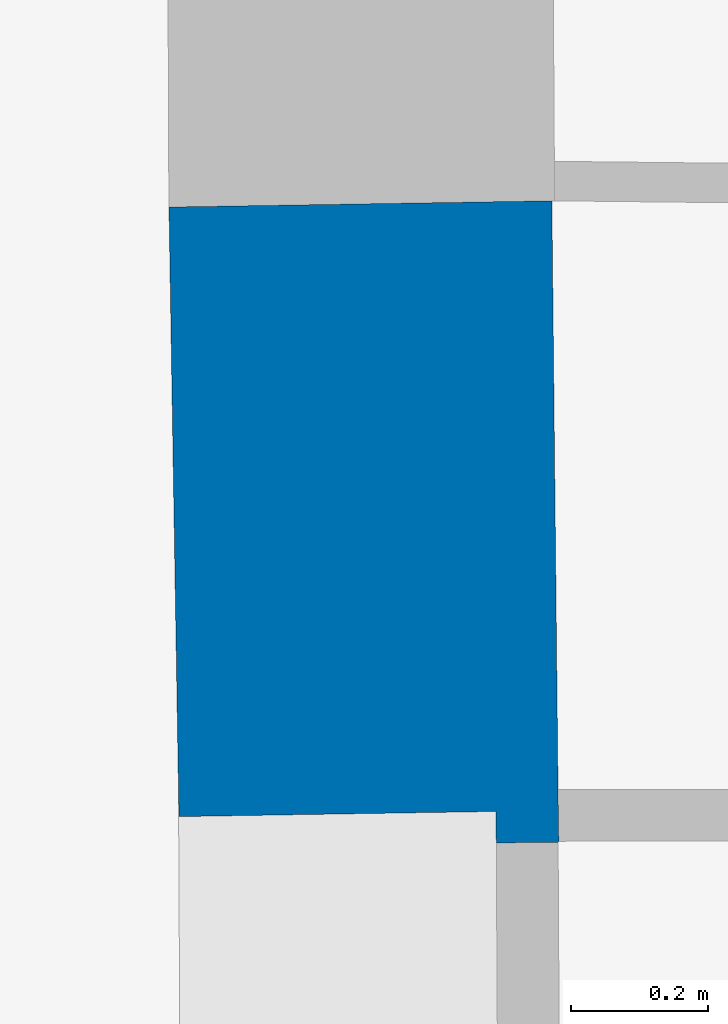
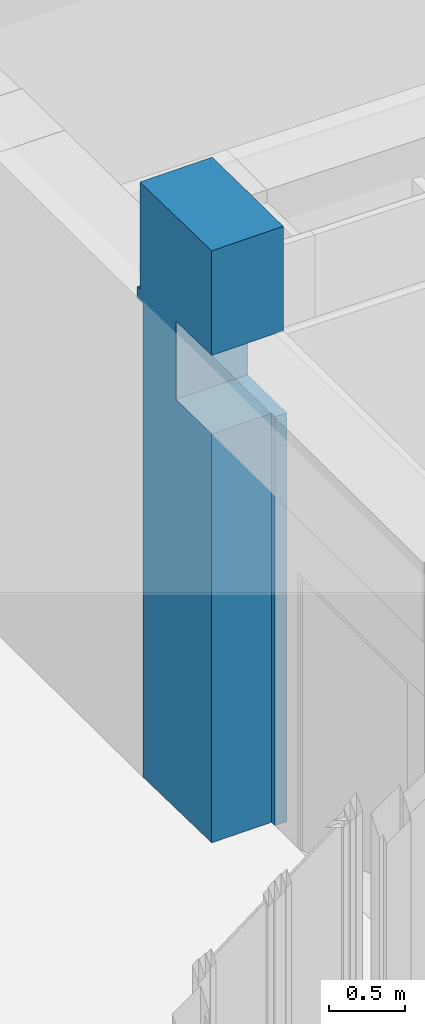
# One storey, part 57 of 97: 1 wall.
"""IFC2X3 building model written with IfcOpenShell, lengths in centimetres."""

from ifc_helpers import new_model, entity, si_unit, converted_unit, direction, frame, origin, origin_with_axes, place, context, subcontext, project, spatial, faceted_brep, material, layer, layer_set, layer_usage, type_object, element, save


model = new_model("IFC2X3")

# Units and contexts
model_context = context("Model", 3, precision=0.0001, world=origin(), true_north=direction((0.225632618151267, 0.974212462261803, 0.0)))
body_context = subcontext(model_context, "Body", "Model", "MODEL_VIEW")
ifc_project = project(units=[si_unit("LENGTHUNIT", "METRE", prefix="CENTI"), si_unit("AREAUNIT", "SQUARE_METRE", prefix="CENTI"), si_unit("VOLUMEUNIT", "CUBIC_METRE", prefix="CENTI"), converted_unit("PLANEANGLEUNIT", "DEGREE", entity("IfcRatioMeasure", 0.0174532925), si_unit("PLANEANGLEUNIT", "RADIAN"), dimensions=[0, 0, 0, 0, 0, 0, 0])], contexts=[model_context])

# Site, building, storey
site_placement = place(None, origin_with_axes())
site = spatial("IfcSite", under=ifc_project, at=site_placement, Name="Default Site", CompositionType="ELEMENT")
building_placement = place(site_placement, origin_with_axes())
building = spatial("IfcBuilding", under=site, at=building_placement, Name="Default Building", CompositionType="ELEMENT")
storey_placement = place(building_placement, origin_with_axes())
storey = spatial("IfcBuildingStorey", under=building, at=storey_placement, Name="Rez-de-chaussée", CompositionType="ELEMENT", Elevation=0.0)

# Wall
ifc_material = material(Name="<aucun>")
ifc_layer = layer(ifc_material, 55.2099975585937)
ifc_layer_set = layer_set([ifc_layer], Name="default")
ifc_layer_usage = layer_usage(ifc_layer_set, "AXIS2", "POSITIVE", -27.605)
wall_type = type_object("IfcWallType", Name="default 552.099975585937", PredefinedType="NOTDEFINED", material=ifc_layer_set)
wall_placement = place(storey_placement, frame((265.115864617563, -380.75302476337, 0.0128503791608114), z_axis=(0.0, 0.0, 1.0), x_axis=(-0.0162957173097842, 0.999867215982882, 0.0)))
element("IfcWall", 1, at=wall_placement, inside=storey, type_object=wall_type, material=ifc_layer_usage, Name="Enveloppe 673699", context=body_context, shape_type="Brep", body=[
    faceted_brep([(4.81350208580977e-06, -18.5622470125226, -4.62607735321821e-10), (-4.57214237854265, -18.5129195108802, -4.62607735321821e-10), (-4.57214237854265, -18.5129195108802, 309.987140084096), (4.81350208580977e-06, -18.5622470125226, 309.987140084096), (44.223748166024, 27.6049967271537, -4.62607735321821e-10), (3.56229069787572e-06, 27.6049966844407, -4.62607735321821e-10), (3.56229069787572e-06, 27.6049966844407, 309.987140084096), (3.83228033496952, 27.604996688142, 309.987140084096), (44.223748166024, 27.6049967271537, 309.987140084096), (88.7371148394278, 27.6050080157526, -4.62607735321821e-10), (44.223748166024, 27.6050079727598, -4.62607735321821e-10), (44.223748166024, 27.6050079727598, 309.987140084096), (46.2692220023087, 27.6050079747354, 309.987140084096), (88.7371148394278, 27.6050080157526, 309.987140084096), (3.83228033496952, 27.6050024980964, 309.987140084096), (3.56229069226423e-06, 27.605002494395, 309.987140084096), (3.56229069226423e-06, 27.605002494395, 329.987144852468), (3.83228033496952, 27.6050024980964, 329.987144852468), (-4.57214237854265, -18.5129195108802, 329.987144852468), (4.81350208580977e-06, -18.5622470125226, 329.987144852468), (46.2692220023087, 27.6050079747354, 329.987144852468), (46.2692220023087, 27.6050079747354, 391.395354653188), (88.7371148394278, 27.6050080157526, 391.395354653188), (88.7371148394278, 27.6050080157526, 382.495355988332), (46.2692220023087, 27.6049951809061, 309.987140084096), (44.223748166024, 27.6049951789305, 309.987140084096), (3.83228033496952, 27.6049951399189, 309.987140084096), (3.83228033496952, 27.6049951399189, 329.987144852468), (46.2692220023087, 27.6049951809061, 329.987144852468), (95.9978559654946, 27.5320265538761, 382.495355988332), (95.9998394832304, 27.6050076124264, 382.495355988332), (95.9998394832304, 27.6050076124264, 391.395354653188), (95.9978559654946, 27.5320265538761, 391.395354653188), (95.9998322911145, 27.6050078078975, 382.495355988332), (92.5384408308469, 27.6050078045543, 382.495355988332), (92.5384408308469, 27.6050078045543, 391.395354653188), (95.9998322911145, 27.6050078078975, 391.395354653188), (92.5384408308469, 27.6050038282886, 382.495355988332), (90.2517268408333, 27.60500382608, 382.495355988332), (90.2517268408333, 27.60500382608, 391.395354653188), (92.5384408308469, 27.6050038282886, 391.395354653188), (90.2517268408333, 27.6050026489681, 382.495355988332), (88.7371148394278, 27.6050026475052, 382.495355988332), (88.7371148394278, 27.6050026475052, 391.395354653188), (90.2517268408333, 27.6050026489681, 391.395354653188), (88.7371148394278, 27.6050038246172, 391.395354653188), (46.2692220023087, 27.6050037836, 391.395354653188), (46.2692220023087, 27.6050037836, 393.395352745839), (92.5384408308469, 27.6050038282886, 393.395352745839), (3.83228033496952, 27.6050024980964, 393.395352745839), (3.56229069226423e-06, 27.605002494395, 393.395352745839), (3.56229069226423e-06, 27.605002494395, 395.995355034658), (3.83228033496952, 27.6050024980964, 395.995355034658), (46.2692220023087, 27.6050037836, 395.995355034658), (71.4498775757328, 27.6050038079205, 395.995355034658), (92.5384408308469, 27.6050038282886, 395.995355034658), (46.2692220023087, 27.6049951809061, 393.395352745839), (3.83228033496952, 27.6049951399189, 393.395352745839), (3.83228033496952, 27.6049951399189, 395.995355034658), (46.2692220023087, 27.6049951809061, 395.995355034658), (71.4498775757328, 27.6050038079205, 477.795339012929), (92.5384408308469, 27.6050038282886, 477.795339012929), (71.4498775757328, 27.6050005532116, 395.995355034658), (46.2692220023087, 27.6050005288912, 395.995355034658), (3.83228033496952, 27.6050004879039, 395.995355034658), (3.56229069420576e-06, 27.6050004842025, 395.995355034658), (3.56229069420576e-06, 27.6050004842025, 477.795339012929), (71.4498775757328, 27.6050005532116, 477.795339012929), (-4.5721425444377, -18.512934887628, -4.62607735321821e-10), (-4.66923498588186, -27.5123960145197, -4.62607735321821e-10), (-4.66923498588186, -27.5123960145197, 309.987140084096), (-4.5721425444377, -18.512934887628, 309.987140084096), (-4.66924088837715, -27.5123959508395, -4.62607735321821e-10), (-4.48662013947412, -27.5143661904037, -4.62607735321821e-10), (-4.48662013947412, -27.5143661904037, 309.987140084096), (-4.66924088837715, -27.5123959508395, 309.987140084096), (-4.48662018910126, -27.5143707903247, -4.62607735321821e-10), (-4.48822616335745, -27.6225771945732, -4.62607735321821e-10), (-4.48822616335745, -27.6225771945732, 309.987140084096), (-4.48662018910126, -27.5143707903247, 309.987140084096), (-4.4882168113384, -27.6225773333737, -4.62607735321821e-10), (3.01259292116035, -27.6225773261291, -4.62607735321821e-10), (3.01259292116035, -27.6225773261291, 309.987140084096), (-4.4882168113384, -27.6225773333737, 309.987140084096), (3.01259292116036, -27.6225950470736, -4.62607735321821e-10), (43.2615487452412, -27.857561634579, -4.62607735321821e-10), (43.2615487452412, -27.857561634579, 309.987140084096), (3.01259292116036, -27.6225950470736, 309.987140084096), (43.2615487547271, -27.8575600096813, -4.62607735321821e-10), (88.7371227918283, -28.12303870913, -4.62607735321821e-10), (88.7371227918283, -28.12303870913, 309.987140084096), (46.2692171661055, -27.8751182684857, 309.987140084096), (43.2615487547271, -27.8575600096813, 309.987140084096), (-4.66923498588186, -27.5123960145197, 329.987144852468), (-4.5721425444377, -18.512934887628, 329.987144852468), (-4.48662013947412, -27.5143661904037, 329.987144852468), (-4.66924088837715, -27.5123959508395, 329.987144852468), (46.2692171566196, -27.8751198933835, 309.987140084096), (46.2692171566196, -27.8751198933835, 329.987144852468), (3.01259292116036, -27.6225950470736, 329.987144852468), (46.2692172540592, -27.8751032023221, 309.987140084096), (88.737122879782, -28.1230236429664, 309.987140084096), (88.737122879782, -28.1230236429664, 382.495355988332), (88.737122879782, -28.1230236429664, 391.395354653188), (46.2692172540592, -27.8751032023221, 391.395354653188), (46.2692172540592, -27.8751032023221, 329.987144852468), (-4.48822616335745, -27.6225771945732, 329.987144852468), (-4.48662018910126, -27.5143707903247, 329.987144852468), (3.01259292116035, -27.6225773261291, 329.987144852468), (-4.4882168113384, -27.6225773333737, 329.987144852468), (92.5384488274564, -28.1230353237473, 382.495355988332), (94.4852282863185, -28.1230353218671, 382.495355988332), (94.4852282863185, -28.1230353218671, 391.395354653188), (92.5384488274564, -28.1230353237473, 391.395354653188), (88.7371228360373, -28.1230311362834, 382.495355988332), (92.5384488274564, -28.1230311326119, 382.495355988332), (92.5384488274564, -28.1230311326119, 391.395354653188), (88.7371228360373, -28.1230311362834, 391.395354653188), (88.737122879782, -28.1230236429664, 393.395352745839), (46.2692172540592, -27.8751032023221, 393.395352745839), (92.538444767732, -28.1452226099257, 391.395354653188), (92.538444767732, -28.1452226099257, 393.395352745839), (88.7371228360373, -28.1230311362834, 393.395352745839), (3.01259292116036, -27.6225950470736, 393.395352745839), (46.2692171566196, -27.8751198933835, 393.395352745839), (46.2692171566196, -27.8751198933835, 395.995355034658), (3.01259292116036, -27.6225950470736, 395.995355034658), (92.5384448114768, -28.1452151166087, 393.395352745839), (92.5384448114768, -28.1452151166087, 395.995355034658), (87.8227055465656, -28.1176854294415, 395.995355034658), (80.822806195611, -28.0768212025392, 395.995355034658), (46.2692172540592, -27.8751032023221, 395.995355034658), (-1.05759550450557e-05, -27.6049952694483, 393.395352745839), (3.01259299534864, -27.6225823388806, 393.395352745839), (3.01259299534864, -27.6225823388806, 395.995355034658), (-1.05759550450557e-05, -27.6049952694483, 395.995355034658), (46.2692172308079, -27.8751071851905, 395.995355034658), (80.8228061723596, -28.0768251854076, 395.995355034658), (80.8228061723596, -28.0768251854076, 477.795339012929), (-1.05759550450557e-05, -27.6049952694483, 477.795339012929), (87.8227055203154, -28.1176899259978, 395.995355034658), (92.5384447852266, -28.145219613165, 395.995355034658), (92.5384447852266, -28.145219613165, 477.795339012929), (87.8227055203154, -28.1176899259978, 477.795339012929), (80.8228061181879, -28.0768344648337, 395.995355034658), (87.8227054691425, -28.1176986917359, 395.995355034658), (87.8227054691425, -28.1176986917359, 477.795339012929), (80.8228061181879, -28.0768344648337, 477.795339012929), (3.56229068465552e-06, 27.6050103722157, -4.62607735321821e-10), (3.60688084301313e-06, -18.5622470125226, -4.62607735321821e-10), (3.60688084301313e-06, -18.5622470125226, 309.987140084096), (3.56229068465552e-06, 27.6050103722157, 309.987140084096), (88.7371228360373, -28.1230311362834, -4.62607735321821e-10), (88.737122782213, 27.6050080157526, -4.62607735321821e-10), (88.737122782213, 27.6050080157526, 309.987140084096), (88.7371228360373, -28.1230311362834, 309.987140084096), (3.01298207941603, -27.5972541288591, 329.987144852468), (46.269232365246, 27.1242793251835, 329.987144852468), (3.56229068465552e-06, 27.6050103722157, 329.987144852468), (3.60688084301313e-06, -18.5622470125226, 329.987144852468), (88.737122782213, 27.6050080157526, 382.495355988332), (46.2692172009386, 27.1242793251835, 391.395354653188), (46.2692172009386, 27.1242793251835, 329.987144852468), (46.269232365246, 27.1242793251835, 391.395354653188), (46.2692323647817, 27.6049951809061, 391.395354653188), (46.2692323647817, 27.6049951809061, 329.987144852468), (92.6573604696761, 27.5730924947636, 382.495355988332), (92.5384472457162, 27.5746728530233, 382.495355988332), (92.5384472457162, 27.5746728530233, 391.395354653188), (92.6573604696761, 27.5730924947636, 391.395354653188), (94.4852282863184, -28.1230259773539, 382.495355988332), (94.4852282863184, -28.1230259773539, 391.395354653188), (46.2692172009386, 27.1242793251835, 393.395352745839), (92.5384487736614, 27.5746728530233, 391.395354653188), (92.5384487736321, 27.6050038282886, 391.395354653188), (92.5384487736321, 27.6050038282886, 393.395352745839), (92.5384488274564, -28.1230353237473, 393.395352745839), (46.269232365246, 27.1242793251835, 393.395352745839), (46.2692323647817, 27.6049951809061, 393.395352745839), (92.5384446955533, -28.1452349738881, 391.395354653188), (92.5384446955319, -28.1230353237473, 391.395354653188), (92.5384446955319, -28.1230353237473, 393.395352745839), (92.5384446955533, -28.1452349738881, 393.395352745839), (3.01298207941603, -27.5972541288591, 393.395352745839), (4.18209653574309e-06, -27.5631236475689, 393.395352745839), (3.56229068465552e-06, 27.6050103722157, 393.395352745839), (3.60688084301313e-06, -18.5622470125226, 393.395352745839), (3.61557424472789e-06, -27.5631236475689, 393.395352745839), (3.61557424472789e-06, -27.5631236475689, 395.995355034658), (3.61389398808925e-06, -25.8234383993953, 395.995355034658), (3.56229068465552e-06, 27.6050103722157, 395.995355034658), (92.5384446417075, 27.6050038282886, 393.395352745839), (92.5384446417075, 27.6050038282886, 395.995355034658), (92.5384446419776, 27.3253494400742, 395.995355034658), (92.5384446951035, -27.6794702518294, 395.995355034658), (92.5384446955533, -28.1452349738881, 395.995355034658), (4.18213697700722e-06, -27.6049952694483, 393.395352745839), (4.18213697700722e-06, -27.6049952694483, 395.995355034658), (4.18209653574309e-06, -27.5631236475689, 395.995355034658), (81.283252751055, 27.4746151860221, 477.795339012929), (92.5384374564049, 27.3253494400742, 477.795339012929), (92.5384374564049, 27.3253494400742, 395.995355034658), (92.5384374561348, 27.6050038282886, 395.995355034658), (92.5384374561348, 27.6050038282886, 477.795339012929), (80.8273780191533, -27.524181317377, 477.795339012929), (80.8355667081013, -26.5374646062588, 477.795339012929), (80.5670388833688, -26.535091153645, 477.795339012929), (5.63224618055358e-06, -25.8234383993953, 477.795339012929), (5.63224618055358e-06, -25.8234383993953, 395.995355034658), (5.63392643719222e-06, -27.5631236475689, 395.995355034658), (5.63396687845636e-06, -27.6049952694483, 395.995355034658), (5.63396687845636e-06, -27.6049952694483, 477.795339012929), (92.5384529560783, -27.6794702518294, 477.795339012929), (90.7971886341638, -27.6563849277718, 477.795339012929), (87.8268595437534, -27.6170121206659, 477.795339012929), (92.5384446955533, -28.1452349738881, 477.795339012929), (92.5384446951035, -27.6794702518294, 477.795339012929), (3.56229068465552e-06, 27.6050103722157, 477.795339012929), (3.61389398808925e-06, -25.8234383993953, 477.795339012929), (92.5384529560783, -27.6794702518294, 395.995355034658), (92.5384529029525, 27.3253494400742, 395.995355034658), (92.5384529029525, 27.3253494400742, 477.795339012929), (92.5384529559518, -27.5484655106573, 477.795339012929), (95.9978506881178, 27.5320266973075, 382.495355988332), (95.9978506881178, 27.5320266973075, 391.395354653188)], [[[0, 1, 2, 3]], [[4, 5, 6, 7, 8]], [[9, 10, 11, 12, 13]], [[14, 15, 16, 17]], [[3, 2, 18, 19]], [[13, 12, 20, 21, 22, 23]], [[24, 25, 26, 27, 28]], [[29, 30, 31, 32]], [[33, 34, 35, 36]], [[37, 38, 39, 40]], [[41, 42, 43, 44]], [[40, 39, 45, 46, 47, 48]], [[49, 50, 51, 52]], [[48, 47, 53, 54, 55]], [[56, 57, 58, 59]], [[55, 54, 60, 61]], [[62, 63, 64, 65, 66, 67]], [[68, 69, 70, 71]], [[72, 73, 74, 75]], [[76, 77, 78, 79]], [[80, 81, 82, 83]], [[84, 85, 86, 87]], [[88, 89, 90, 91, 92]], [[71, 70, 93, 94]], [[75, 74, 95, 96]], [[87, 86, 97, 98, 99]], [[100, 101, 102, 103, 104, 105]], [[79, 78, 106, 107]], [[83, 82, 108, 109]], [[110, 111, 112, 113]], [[114, 115, 116, 117]], [[104, 103, 118, 119]], [[117, 120, 121, 122]], [[123, 124, 125, 126]], [[119, 118, 127, 128, 129, 130, 131]], [[132, 133, 134, 135]], [[135, 134, 136, 137, 138, 139]], [[140, 141, 142, 143]], [[144, 145, 146, 147]], [[148, 4, 88, 84, 80, 76, 72, 68, 0]], [[148, 149, 150, 151]], [[152, 88, 4, 9]], [[152, 153, 154, 155]], [[94, 96, 107, 156, 99, 105, 157, 17, 158, 19]], [[151, 150, 159, 158]], [[155, 154, 160, 114]], [[104, 161, 162, 105]], [[163, 164, 165, 157]], [[99, 156, 107, 109]], [[17, 157, 28]], [[33, 29, 166, 167, 37]], [[40, 168, 169, 32, 36]], [[37, 167, 41]], [[110, 167, 166, 29, 170]], [[171, 32, 169, 168, 113]], [[23, 41, 167, 110, 114]], [[119, 172, 161, 104]], [[113, 173, 174, 175, 176]], [[177, 178, 164, 163]], [[113, 179, 117]], [[179, 180, 181, 182]], [[119, 123, 183, 184, 185, 49, 177]], [[185, 186, 187, 188, 189, 190]], [[182, 181, 191, 192, 193, 194, 195]], [[56, 177, 49]], [[132, 184, 183, 123]], [[184, 196, 197, 198]], [[67, 199, 200, 61]], [[201, 202, 203, 200]], [[147, 204, 205, 206, 207, 139]], [[208, 209, 210, 211, 207]], [[212, 213, 214, 143, 215]], [[195, 194, 216, 215]], [[206, 199, 67, 217, 207]], [[190, 189, 218, 217]], [[205, 204, 214, 212, 200, 199, 206]], [[219, 220, 221, 222, 212]], [[143, 214, 204, 147]], [[170, 223, 224, 171]]]),
])

save(model, "model.ifc")
